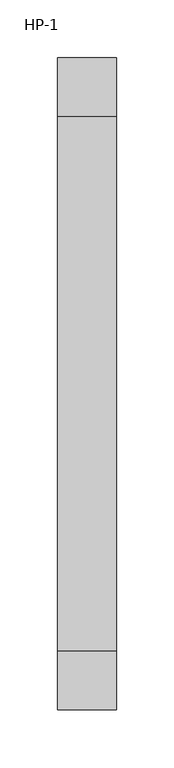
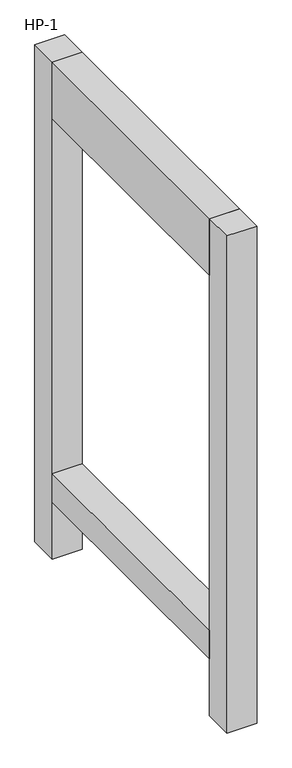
"""IFC4 building model written with IfcOpenShell, lengths in millimetres: furniture geometry, HP-LP : HP-1."""

from ifc_helpers import new_model, si_unit, frame, origin, origin_with_axes, place, context, project, spatial, polyline, outline, extrude, source, transform, mapped, element, save


def hp_1_35d8efb3(model_context):
    return source(origin(), model_context, "Body", "SweptSolid", [
        extrude(outline(polyline([(44.1377049, -461.6), (-6.6622951, -461.6), (-6.6622951, 0.0), (44.1377049, 0.0), (44.1377049, -461.6)])), frame((0.0, 0.0, 787.4), z_axis=(0.0, 0.0, 1.0), x_axis=(1.0, 0.0, 0.0)), (0.0, 0.0, 1.0), 101.6),
        extrude(outline(polyline([(44.1377049, -461.6), (-6.6622951, -461.6), (-6.6622951, 0.0), (44.1377049, 0.0), (44.1377049, -461.6)])), frame((0.0, 0.0, 102.0), z_axis=(0.0, 0.0, 1.0), x_axis=(1.0, 0.0, 0.0)), (0.0, 0.0, 1.0), 50.8),
        extrude(outline(polyline([(44.1377049, -512.6), (-6.6622951, -512.6), (-6.6622951, -461.6), (44.1377049, -461.6), (44.1377049, -512.6)])), origin_with_axes(), (0.0, 0.0, 1.0), 889.0),
        extrude(outline(polyline([(44.1377049, 0.0), (-6.6622951, 0.0), (-6.6622951, 51.0), (44.1377049, 51.0), (44.1377049, 0.0)])), origin_with_axes(), (0.0, 0.0, 1.0), 889.0),
    ])


if __name__ == "__main__":
    model = new_model("IFC4")
    model_context = context("Model", 3, world=origin())
    ifc_project = project(units=[si_unit("LENGTHUNIT", "METRE", prefix="MILLI")], contexts=[model_context])
    site = spatial("IfcSite", under=ifc_project)
    building = spatial("IfcBuilding", under=site)
    placement = place(None, origin())
    hp_1_shape = hp_1_35d8efb3(model_context)
    element("IfcFurniture", 1, ObjectType="HP-LP : HP-1", at=placement, inside=building, context=model_context, shape_type="MappedRepresentation", body=[
        mapped(hp_1_shape, transform((0.0, 0.0, 0.0), x_axis=(1.0, 0.0, 0.0), y_axis=(0.0, 1.0, 0.0), z_axis=(0.0, 0.0, 1.0))),
    ])
    save(model, "model.ifc")
